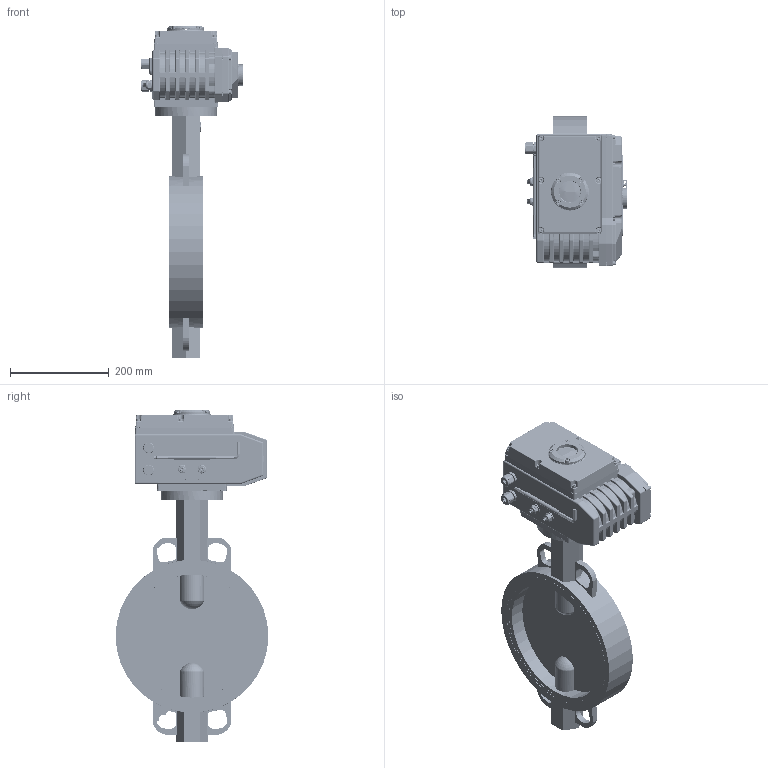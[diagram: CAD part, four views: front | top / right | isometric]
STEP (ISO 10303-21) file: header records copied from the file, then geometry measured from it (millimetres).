
FILE_DESCRIPTION(('STEP AP203'), '1');
FILE_NAME('3D_200_201-250-16-Ï.31', '', ('UNSPECIFIED'), ('UNSPECIFIED'), 'C3D Converter', 'C3D Toolkit', '');
FILE_SCHEMA(('CONFIG_CONTROL_DESIGN'));
Length unit declared in the file: millimetre
Bounding box: 209 x 310 x 674 mm (x, y, z)
Volume: 8631659.9 mm3; surface area: 655950.2 mm2
Topology: 61 solids, 61 shells, 8378 faces, 23192 edges, 14789 vertices
Faces by surface type: plane 4855, cylinder 1934, cone 617, bspline 486, torus 348, sphere 138
Full cylindrical faces by diameter (mm): 2 x2, 2.5 x1, 3 x2, 3.2 x1, 4.2 x18, 4.4 x14, 4.7 x14, 5 x91, 5.5 x4, 5.6 x1, 5.8 x14, 6.5 x1, 7.8 x14, 8.5 x12, 10 x19, 10.1 x2, 10.2 x4, 10.5 x4, 12 x6, 15 x2, 15.73 x4, 20 x4, 22 x2, 30 x2, 32 x1, 35.5 x4, 43 x1, 43.5 x1, 57.5 x1, 60 x2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
Entity records: 470564 total; most frequent: CARTESIAN_POINT 201021, ORIENTED_EDGE 44514, DIRECTION 38187, EDGE_CURVE 22257, VERTEX_POINT 14740, AXIS2_PLACEMENT_3D 12930, LINE 12327, VECTOR 12327
